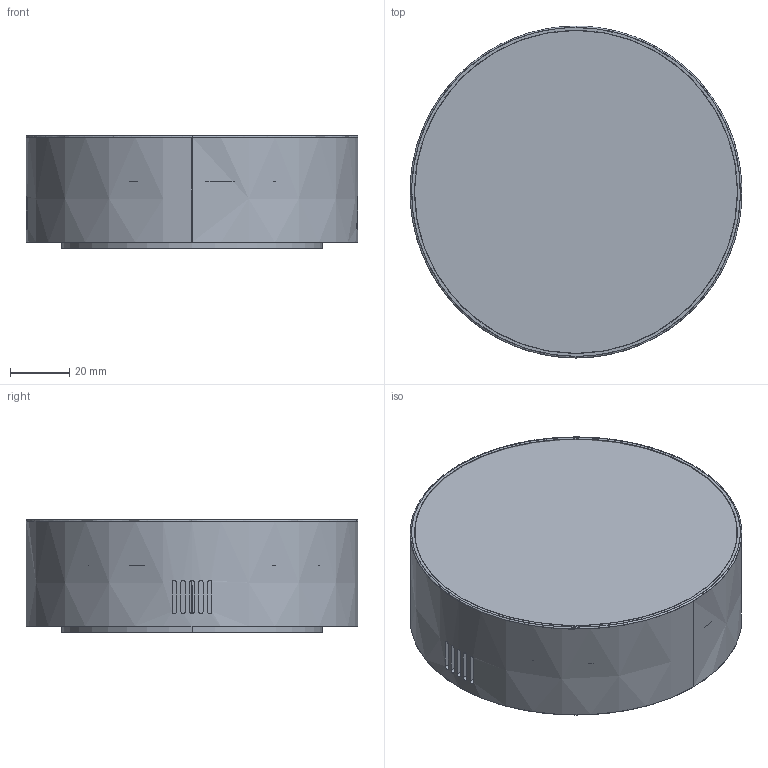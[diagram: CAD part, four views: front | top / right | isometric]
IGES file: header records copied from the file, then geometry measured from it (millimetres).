
Start section: SolidWorks IGES file using analytic representation for surfaces
Global section: file name: C:\Users\anna.bielnik\Desktop\modele 3D tymczasowe\LID-ROUND-LED\LID-ROUND-LED-15W\PM\Z³o¿enie LID ROUND LED 15W.IGS; native system: SolidWorks 2023; preprocessor: SolidWorks 2023; author: anna.bielnik; date: 230710.085913; units: millimetre
Bounding box: 112 x 112 x 38 mm (x, y, z)
Surface area: 94006.6 mm2 (no closed solid volume)
Topology: 0 solids, 0 shells, 72 faces, 1728 edges, 1728 vertices
Faces by surface type: revolution 38, bspline 34
